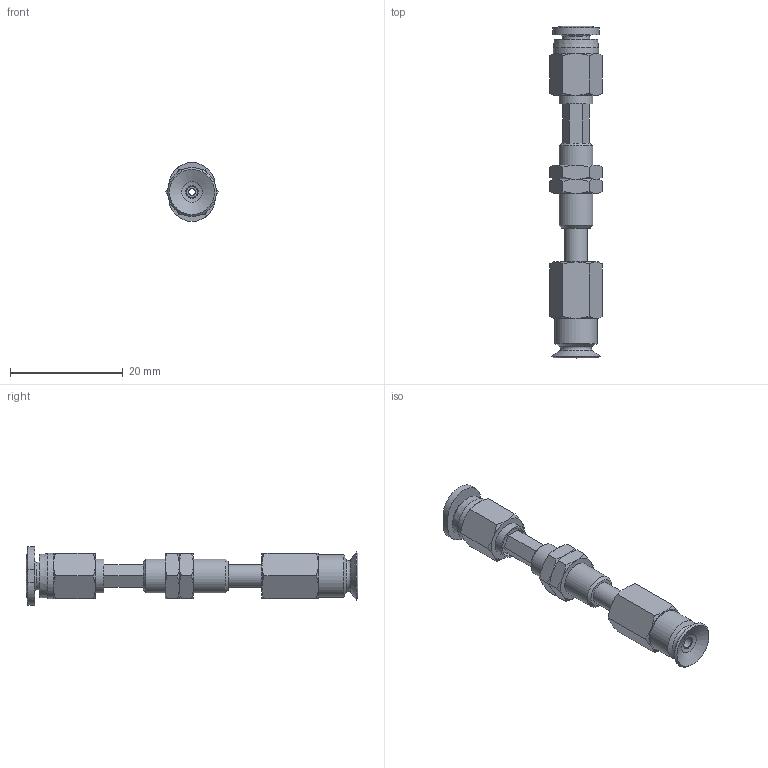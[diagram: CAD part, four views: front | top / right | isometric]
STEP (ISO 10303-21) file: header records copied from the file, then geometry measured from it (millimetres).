
FILE_DESCRIPTION(('STEP AP203'),'1');
FILE_NAME('-O.stp','2025-08-27T05:43:03',(' '),(' '),'Spatial InterOp 3D',' ',' ');
FILE_SCHEMA(('CONFIG_CONTROL_DESIGN'));
Length unit declared in the file: millimetre
Products named in the file (7): BNABPFTS-8A-6-※-O; ADAPTER; NAPCTS-7-6-MBODY; Nut-8A-6-s; NAPFTS-8A-6-FBODY; BPFG-8A-※; PC-C_04-M3
Assembly tree (7 placements, depth 2):
  BNABPFTS-8A-6-※-O
    ADAPTER
    NAPCTS-7-6-MBODY
    Nut-8A-6-s  x2
    NAPFTS-8A-6-FBODY
    BPFG-8A-※
    PC-C_04-M3
Bounding box: 9.24 x 58.77 x 10.4 mm (x, y, z)
Volume: 1502.3 mm3; surface area: 2980.1 mm2
Topology: 6 solids, 8 shells, 168 faces, 346 edges, 205 vertices
Faces by surface type: cone 64, plane 63, cylinder 23, torus 10, bspline 5, revolution 3
Full cylindrical faces by diameter (mm): 1.2 x2, 2 x1, 2.459 x1, 2.5 x2, 3 x1, 4 x4, 4.9 x1, 5.188 x2, 6 x4, 6.1 x1, 7.5 x1, 8 x1
Entity records: 4223 total; most frequent: CARTESIAN_POINT 1154, DIRECTION 571, ORIENTED_EDGE 484, AXIS2_PLACEMENT_3D 257, EDGE_CURVE 243, EDGE_LOOP 213, VERTEX_POINT 168, FACE_OUTER_BOUND 116
